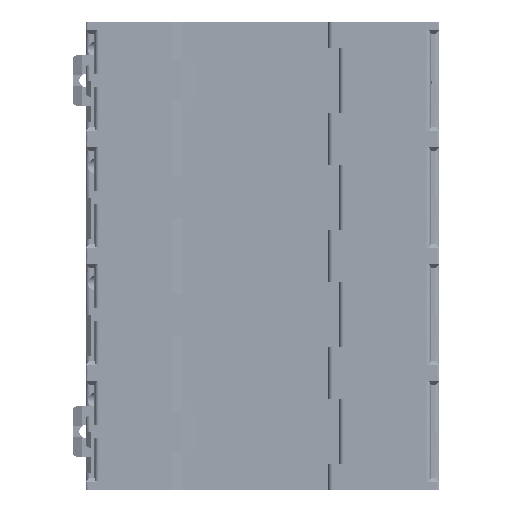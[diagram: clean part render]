
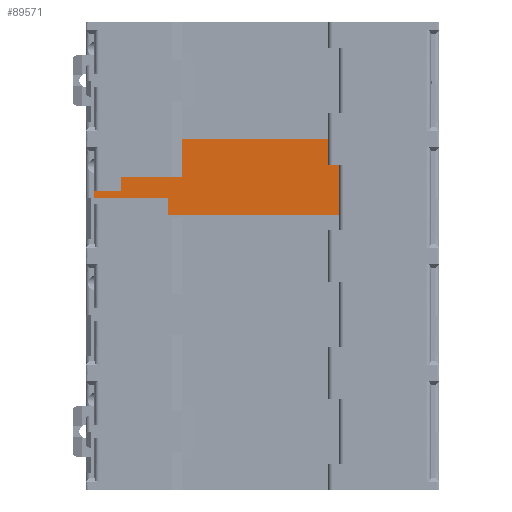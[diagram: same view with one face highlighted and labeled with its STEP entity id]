
A CAD part, front view. The second image highlights one B-rep face of the part: STEP entity #89571.
In plain terms, the highlighted planar face has unit normal (0, -1, 0).
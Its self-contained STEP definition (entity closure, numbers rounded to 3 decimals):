
#737 = CARTESIAN_POINT ( 'NONE',  ( -19., -60., 18. ) ) ;
#936 = EDGE_CURVE ( 'NONE', #70759, #70529, #1172, .T. ) ;
#1172 = LINE ( 'NONE', #16244, #53500 ) ;
#1205 = LINE ( 'NONE', #6572, #20094 ) ;
#2826 = LINE ( 'NONE', #35709, #52943 ) ;
#4112 = ORIENTED_EDGE ( 'NONE', *, *, #24950, .F. ) ;
#5874 = LINE ( 'NONE', #53405, #43717 ) ;
#6572 = CARTESIAN_POINT ( 'NONE',  ( 20.3, -60., -34.51 ) ) ;
#8816 = EDGE_CURVE ( 'NONE', #9633, #86065, #72192, .T. ) ;
#9082 = DIRECTION ( 'NONE',  ( 1., 0., 0. ) ) ;
#9267 = EDGE_CURVE ( 'NONE', #57007, #63748, #88738, .T. ) ;
#9527 = CARTESIAN_POINT ( 'NONE',  ( -22.3, -60., 19.1 ) ) ;
#9633 = VERTEX_POINT ( 'NONE', #79986 ) ;
#9808 = LINE ( 'NONE', #22733, #26521 ) ;
#10705 = CARTESIAN_POINT ( 'NONE',  ( -18.5, -60., 18.5 ) ) ;
#11460 = EDGE_CURVE ( 'NONE', #48133, #9633, #37176, .T. ) ;
#12021 = CARTESIAN_POINT ( 'NONE',  ( -28., -60., 19.1 ) ) ;
#12538 = DIRECTION ( 'NONE',  ( 1., 0., 0. ) ) ;
#12859 = ORIENTED_EDGE ( 'NONE', *, *, #9267, .F. ) ;
#13005 = VECTOR ( 'NONE', #9082, 1000. ) ;
#14726 = ORIENTED_EDGE ( 'NONE', *, *, #47846, .F. ) ;
#15239 = DIRECTION ( 'NONE',  ( 1., 0., 0. ) ) ;
#15303 = VERTEX_POINT ( 'NONE', #61305 ) ;
#15753 = ORIENTED_EDGE ( 'NONE', *, *, #39263, .F. ) ;
#16244 = CARTESIAN_POINT ( 'NONE',  ( -22.3, -60., 18. ) ) ;
#16340 = DIRECTION ( 'NONE',  ( 0., 0., 1. ) ) ;
#16654 = CARTESIAN_POINT ( 'NONE',  ( -21.7, -60., 7.5 ) ) ;
#16877 = CARTESIAN_POINT ( 'NONE',  ( -18.5, -60., 17.8 ) ) ;
#17319 = EDGE_CURVE ( 'NONE', #74203, #86065, #70788, .T. ) ;
#18606 = VECTOR ( 'NONE', #67457, 1000. ) ;
#19949 = ORIENTED_EDGE ( 'NONE', *, *, #79422, .T. ) ;
#20094 = VECTOR ( 'NONE', #63247, 1000. ) ;
#22733 = CARTESIAN_POINT ( 'NONE',  ( -21.7, -60., 7.5 ) ) ;
#24050 = VECTOR ( 'NONE', #78140, 1000. ) ;
#24950 = EDGE_CURVE ( 'NONE', #25171, #89010, #30553, .T. ) ;
#25171 = VERTEX_POINT ( 'NONE', #72929 ) ;
#25534 = CARTESIAN_POINT ( 'NONE',  ( -26.4, -60., 17.8 ) ) ;
#26074 = VECTOR ( 'NONE', #91592, 1000. ) ;
#26521 = VECTOR ( 'NONE', #79858, 1000. ) ;
#26616 = DIRECTION ( 'NONE',  ( 0., -1., 0. ) ) ;
#27743 = CARTESIAN_POINT ( 'NONE',  ( -38.5, -60., 11.6 ) ) ;
#28514 = ORIENTED_EDGE ( 'NONE', *, *, #41558, .F. ) ;
#28605 = ORIENTED_EDGE ( 'NONE', *, *, #65229, .T. ) ;
#29077 = ORIENTED_EDGE ( 'NONE', *, *, #36062, .T. ) ;
#30003 = VERTEX_POINT ( 'NONE', #32348 ) ;
#30553 = LINE ( 'NONE', #27743, #26074 ) ;
#30598 = EDGE_CURVE ( 'NONE', #32043, #57007, #75586, .T. ) ;
#31852 = CARTESIAN_POINT ( 'NONE',  ( -22.3, -60., 18. ) ) ;
#31987 = VECTOR ( 'NONE', #12538, 1000. ) ;
#32043 = VERTEX_POINT ( 'NONE', #34516 ) ;
#32348 = CARTESIAN_POINT ( 'NONE',  ( 20.3, -60., 11.6 ) ) ;
#33131 = VERTEX_POINT ( 'NONE', #16654 ) ;
#33804 = CARTESIAN_POINT ( 'NONE',  ( 1.246, -60., 25. ) ) ;
#34516 = CARTESIAN_POINT ( 'NONE',  ( -30.9, -60., 17.8 ) ) ;
#35709 = CARTESIAN_POINT ( 'NONE',  ( -19., -60., 18. ) ) ;
#36062 = EDGE_CURVE ( 'NONE', #32043, #89010, #5874, .T. ) ;
#36933 = EDGE_LOOP ( 'NONE', ( #82746, #56429, #19949, #67055, #14726, #15753, #12859, #57167, #29077, #4112, #28605, #79769, #88693, #69193, #28514, #91310 ) ) ;
#37176 = LINE ( 'NONE', #16877, #72922 ) ;
#38454 = DIRECTION ( 'NONE',  ( 0., 0., 1. ) ) ;
#39263 = EDGE_CURVE ( 'NONE', #63748, #66867, #39372, .T. ) ;
#39372 = LINE ( 'NONE', #9527, #91785 ) ;
#41558 = EDGE_CURVE ( 'NONE', #74203, #30003, #55641, .T. ) ;
#43492 = EDGE_CURVE ( 'NONE', #33131, #61159, #67583, .T. ) ;
#43717 = VECTOR ( 'NONE', #60578, 1000. ) ;
#44610 = DIRECTION ( 'NONE',  ( 0., 0., 1. ) ) ;
#45022 = CARTESIAN_POINT ( 'NONE',  ( 17.5, -60., 11.6 ) ) ;
#47846 = EDGE_CURVE ( 'NONE', #66867, #70759, #80980, .T. ) ;
#48133 = VERTEX_POINT ( 'NONE', #10705 ) ;
#49542 = CARTESIAN_POINT ( 'NONE',  ( 17.5, -60., 25. ) ) ;
#50554 = CARTESIAN_POINT ( 'NONE',  ( -22.3, -60., 19.1 ) ) ;
#50603 = CARTESIAN_POINT ( 'NONE',  ( 1.246, -60., 11.6 ) ) ;
#51707 = CARTESIAN_POINT ( 'NONE',  ( 1.246, -60., 11.6 ) ) ;
#51793 = VECTOR ( 'NONE', #16340, 1000. ) ;
#51850 = DIRECTION ( 'NONE',  ( 0.953, 0., 0.302 ) ) ;
#52943 = VECTOR ( 'NONE', #71533, 1000. ) ;
#53405 = CARTESIAN_POINT ( 'NONE',  ( -38.5, -60., 17.8 ) ) ;
#53500 = VECTOR ( 'NONE', #15239, 1000. ) ;
#53749 = AXIS2_PLACEMENT_3D ( 'NONE', #90490, #26616, #76495 ) ;
#55641 = LINE ( 'NONE', #50603, #91359 ) ;
#56429 = ORIENTED_EDGE ( 'NONE', *, *, #11460, .F. ) ;
#56775 = FACE_OUTER_BOUND ( 'NONE', #36933, .T. ) ;
#57007 = VERTEX_POINT ( 'NONE', #12021 ) ;
#57167 = ORIENTED_EDGE ( 'NONE', *, *, #30598, .F. ) ;
#57786 = DIRECTION ( 'NONE',  ( 1., 0., 0. ) ) ;
#60254 = CARTESIAN_POINT ( 'NONE',  ( -28., -60., 19.1 ) ) ;
#60578 = DIRECTION ( 'NONE',  ( -1., 0., 0. ) ) ;
#61159 = VERTEX_POINT ( 'NONE', #71355 ) ;
#61305 = CARTESIAN_POINT ( 'NONE',  ( 20.3, -60., 7.5 ) ) ;
#63247 = DIRECTION ( 'NONE',  ( 0., 0., 1. ) ) ;
#63748 = VERTEX_POINT ( 'NONE', #25534 ) ;
#65229 = EDGE_CURVE ( 'NONE', #25171, #61159, #86646, .T. ) ;
#66867 = VERTEX_POINT ( 'NONE', #50554 ) ;
#67055 = ORIENTED_EDGE ( 'NONE', *, *, #936, .F. ) ;
#67359 = CARTESIAN_POINT ( 'NONE',  ( -26.4, -60., 17.8 ) ) ;
#67457 = DIRECTION ( 'NONE',  ( 0.913, 0., 0.409 ) ) ;
#67583 = LINE ( 'NONE', #73103, #77622 ) ;
#69081 = CARTESIAN_POINT ( 'NONE',  ( -38.5, -60., 17.8 ) ) ;
#69193 = ORIENTED_EDGE ( 'NONE', *, *, #73851, .T. ) ;
#69292 = PLANE ( 'NONE',  #53749 ) ;
#69801 = VECTOR ( 'NONE', #88858, 1000. ) ;
#70529 = VERTEX_POINT ( 'NONE', #737 ) ;
#70759 = VERTEX_POINT ( 'NONE', #31852 ) ;
#70788 = LINE ( 'NONE', #45022, #51793 ) ;
#71355 = CARTESIAN_POINT ( 'NONE',  ( -21.7, -60., 11.6 ) ) ;
#71533 = DIRECTION ( 'NONE',  ( -0.707, 0., -0.707 ) ) ;
#72192 = LINE ( 'NONE', #33804, #31987 ) ;
#72922 = VECTOR ( 'NONE', #38454, 1000. ) ;
#72929 = CARTESIAN_POINT ( 'NONE',  ( -38.5, -60., 11.6 ) ) ;
#73103 = CARTESIAN_POINT ( 'NONE',  ( -21.7, -60., -34.51 ) ) ;
#73851 = EDGE_CURVE ( 'NONE', #15303, #30003, #1205, .T. ) ;
#74203 = VERTEX_POINT ( 'NONE', #81939 ) ;
#75586 = LINE ( 'NONE', #60254, #18606 ) ;
#76495 = DIRECTION ( 'NONE',  ( 1., 0., 0. ) ) ;
#77622 = VECTOR ( 'NONE', #44610, 1000. ) ;
#78005 = EDGE_CURVE ( 'NONE', #33131, #15303, #9808, .T. ) ;
#78140 = DIRECTION ( 'NONE',  ( 0., 0., -1. ) ) ;
#79422 = EDGE_CURVE ( 'NONE', #48133, #70529, #2826, .T. ) ;
#79769 = ORIENTED_EDGE ( 'NONE', *, *, #43492, .F. ) ;
#79858 = DIRECTION ( 'NONE',  ( 1., 0., 0. ) ) ;
#79986 = CARTESIAN_POINT ( 'NONE',  ( -18.5, -60., 25. ) ) ;
#80980 = LINE ( 'NONE', #92117, #24050 ) ;
#81939 = CARTESIAN_POINT ( 'NONE',  ( 17.5, -60., 11.6 ) ) ;
#82746 = ORIENTED_EDGE ( 'NONE', *, *, #8816, .F. ) ;
#86065 = VERTEX_POINT ( 'NONE', #49542 ) ;
#86646 = LINE ( 'NONE', #51707, #13005 ) ;
#88693 = ORIENTED_EDGE ( 'NONE', *, *, #78005, .T. ) ;
#88738 = LINE ( 'NONE', #67359, #69801 ) ;
#88858 = DIRECTION ( 'NONE',  ( 0.776, 0., -0.631 ) ) ;
#89010 = VERTEX_POINT ( 'NONE', #69081 ) ;
#89571 = ADVANCED_FACE ( 'NONE', ( #56775 ), #69292, .T. ) ;
#90490 = CARTESIAN_POINT ( 'NONE',  ( 1.246, -60., 11.6 ) ) ;
#91310 = ORIENTED_EDGE ( 'NONE', *, *, #17319, .T. ) ;
#91359 = VECTOR ( 'NONE', #57786, 1000. ) ;
#91592 = DIRECTION ( 'NONE',  ( 0., 0., 1. ) ) ;
#91785 = VECTOR ( 'NONE', #51850, 1000. ) ;
#92117 = CARTESIAN_POINT ( 'NONE',  ( -22.3, -60., 18. ) ) ;
